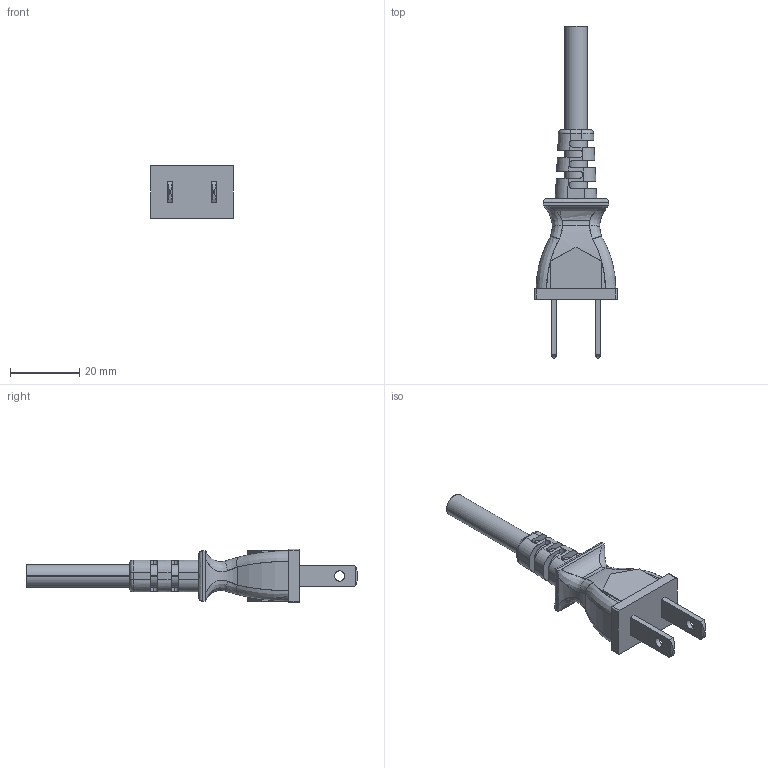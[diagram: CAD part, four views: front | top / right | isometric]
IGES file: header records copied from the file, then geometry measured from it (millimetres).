
Start section: SolidWorks IGES file using analytic representation for surfaces
Bounding box: 24 x 96 x 15.5 mm (x, y, z)
Surface area: 5118.3 mm2 (no closed solid volume)
Topology: 0 solids, 0 shells, 141 faces, 2166 edges, 2166 vertices
Faces by surface type: bspline 77, revolution 64
